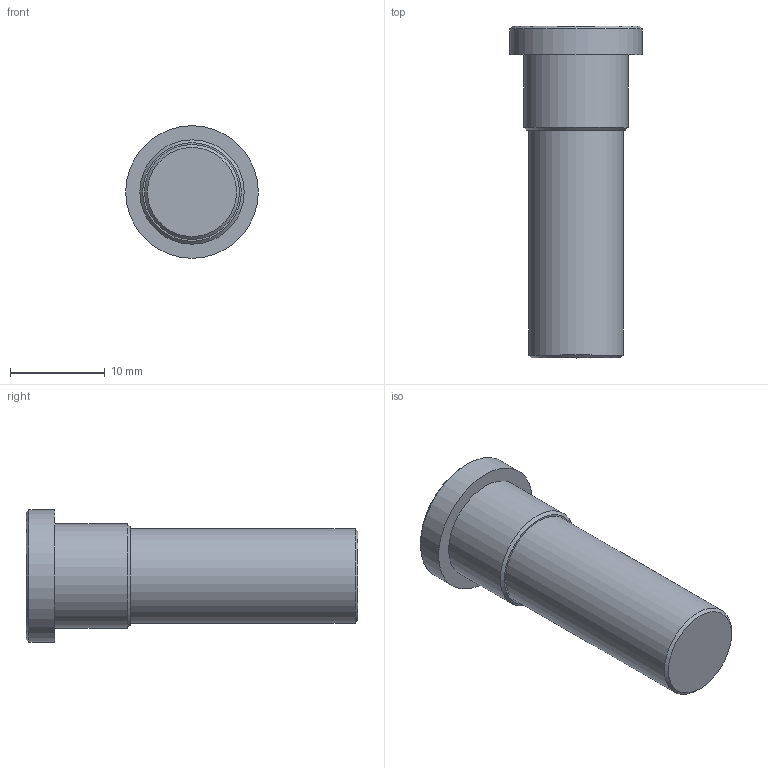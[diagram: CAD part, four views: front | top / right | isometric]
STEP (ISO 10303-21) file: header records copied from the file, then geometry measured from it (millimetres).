
FILE_DESCRIPTION((''),'2;1');
FILE_NAME('C:\Documents and Settings\rivolro1\Documenti\copia di Raccordi\PLASTICA\T09XX00\T091000.stp','2007-10-30T17:18:52',('Rivolro1'),(''),'Autodesk Inventor 2008','Autodesk Inventor 2008','');
FILE_SCHEMA(('AUTOMOTIVE_DESIGN { 1 0 10303 214 1 1 1 1 }'));
Length unit declared in the file: millimetre
Products named in the file (1): T091000
Bounding box: 14 x 35 x 14 mm (x, y, z)
Volume: 3102.2 mm3; surface area: 1450.6 mm2
Topology: 1 solids, 1 shells, 10 faces, 15 edges, 9 vertices
Faces by surface type: plane 4, cone 3, cylinder 3
Full cylindrical faces by diameter (mm): 10 x1, 11 x1, 14 x1
Entity records: 220 total; most frequent: DIRECTION 40, CARTESIAN_POINT 29, AXIS2_PLACEMENT_3D 20, ORIENTED_EDGE 18, EDGE_LOOP 18, FACE_OUTER_BOUND 10, ADVANCED_FACE 10, VERTEX_POINT 9
